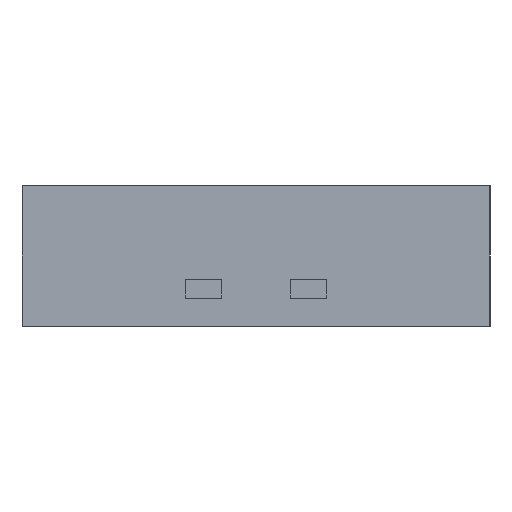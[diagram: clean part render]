
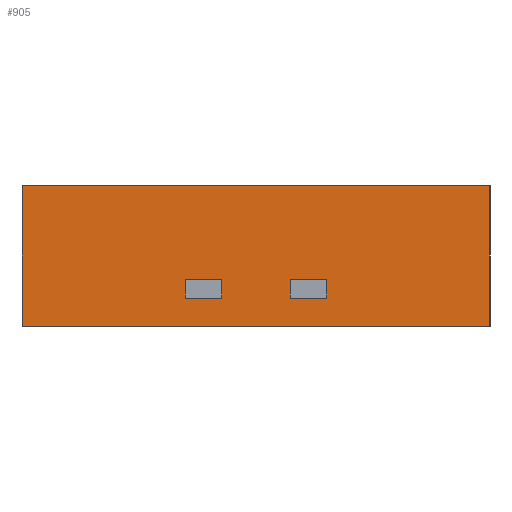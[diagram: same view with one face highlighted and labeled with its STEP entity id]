
A CAD part, left-side view. The second image highlights one B-rep face of the part: STEP entity #905.
In plain terms, the highlighted planar face has unit normal (-1, 0, 0).
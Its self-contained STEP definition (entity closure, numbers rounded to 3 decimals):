
#92 = VERTEX_POINT ( 'NONE', #9311 ) ;
#121 = VECTOR ( 'NONE', #4493, 1000. ) ;
#140 = VECTOR ( 'NONE', #2993, 1000. ) ;
#152 = CARTESIAN_POINT ( 'NONE',  ( -1.362, -0.976, 2.7 ) ) ;
#398 = VERTEX_POINT ( 'NONE', #9143 ) ;
#636 = DIRECTION ( 'NONE',  ( 0., 1., 0. ) ) ;
#674 = VECTOR ( 'NONE', #8005, 1000. ) ;
#692 = EDGE_CURVE ( 'NONE', #92, #1917, #2338, .T. ) ;
#785 = DIRECTION ( 'NONE',  ( 1., 0., 0. ) ) ;
#833 = CARTESIAN_POINT ( 'NONE',  ( -1.362, -0.976, 2.1 ) ) ;
#905 = ADVANCED_FACE ( 'NONE', ( #6013, #4435, #5232 ), #8330, .F. ) ;
#967 = LINE ( 'NONE', #6387, #674 ) ;
#1051 = CARTESIAN_POINT ( 'NONE',  ( -1.362, 1.024, 2.1 ) ) ;
#1217 = ORIENTED_EDGE ( 'NONE', *, *, #1318, .T. ) ;
#1273 = LINE ( 'NONE', #2724, #5417 ) ;
#1296 = EDGE_CURVE ( 'NONE', #9564, #7773, #3031, .T. ) ;
#1318 = EDGE_CURVE ( 'NONE', #8434, #5778, #967, .T. ) ;
#1358 = VECTOR ( 'NONE', #636, 1000. ) ;
#1395 = CARTESIAN_POINT ( 'NONE',  ( -1.362, -0.279, 2.3 ) ) ;
#1430 = ORIENTED_EDGE ( 'NONE', *, *, #2764, .F. ) ;
#1499 = CARTESIAN_POINT ( 'NONE',  ( -1.362, 0.171, 2.22 ) ) ;
#1522 = LINE ( 'NONE', #2267, #8672 ) ;
#1917 = VERTEX_POINT ( 'NONE', #9884 ) ;
#2025 = ORIENTED_EDGE ( 'NONE', *, *, #3788, .T. ) ;
#2067 = CARTESIAN_POINT ( 'NONE',  ( -1.362, -0.123, 2.3 ) ) ;
#2267 = CARTESIAN_POINT ( 'NONE',  ( -1.362, -0.976, 2.1 ) ) ;
#2338 = LINE ( 'NONE', #152, #9969 ) ;
#2486 = DIRECTION ( 'NONE',  ( 0., 0., 1. ) ) ;
#2687 = ORIENTED_EDGE ( 'NONE', *, *, #6282, .F. ) ;
#2724 = CARTESIAN_POINT ( 'NONE',  ( -1.362, 0.327, 2.22 ) ) ;
#2764 = EDGE_CURVE ( 'NONE', #398, #3115, #6875, .T. ) ;
#2838 = CARTESIAN_POINT ( 'NONE',  ( -1.362, -0.123, 2.22 ) ) ;
#2953 = CARTESIAN_POINT ( 'NONE',  ( -1.362, -0.279, 2.3 ) ) ;
#2993 = DIRECTION ( 'NONE',  ( 0., 1., 0. ) ) ;
#3031 = LINE ( 'NONE', #7769, #5473 ) ;
#3115 = VERTEX_POINT ( 'NONE', #7058 ) ;
#3261 = LINE ( 'NONE', #6321, #6780 ) ;
#3521 = ORIENTED_EDGE ( 'NONE', *, *, #6511, .T. ) ;
#3581 = CARTESIAN_POINT ( 'NONE',  ( -1.362, -0.123, 2.22 ) ) ;
#3788 = EDGE_CURVE ( 'NONE', #398, #92, #1522, .T. ) ;
#3838 = DIRECTION ( 'NONE',  ( 0., 1., 0. ) ) ;
#4040 = VERTEX_POINT ( 'NONE', #7561 ) ;
#4222 = ORIENTED_EDGE ( 'NONE', *, *, #4609, .T. ) ;
#4326 = EDGE_LOOP ( 'NONE', ( #7111, #9966, #7021, #4222 ) ) ;
#4427 = ORIENTED_EDGE ( 'NONE', *, *, #7339, .F. ) ;
#4435 = FACE_OUTER_BOUND ( 'NONE', #6996, .T. ) ;
#4481 = CARTESIAN_POINT ( 'NONE',  ( -1.362, 0.171, 2.3 ) ) ;
#4493 = DIRECTION ( 'NONE',  ( 0., 0., -1. ) ) ;
#4583 = CARTESIAN_POINT ( 'NONE',  ( -1.362, -0.976, 2.1 ) ) ;
#4594 = DIRECTION ( 'NONE',  ( 0., 1., 0. ) ) ;
#4609 = EDGE_CURVE ( 'NONE', #7773, #9970, #1273, .T. ) ;
#4768 = CARTESIAN_POINT ( 'NONE',  ( -1.362, 0.171, 2.22 ) ) ;
#4825 = ORIENTED_EDGE ( 'NONE', *, *, #6649, .F. ) ;
#5232 = FACE_BOUND ( 'NONE', #4326, .T. ) ;
#5417 = VECTOR ( 'NONE', #8887, 1000. ) ;
#5473 = VECTOR ( 'NONE', #6049, 1000. ) ;
#5755 = VERTEX_POINT ( 'NONE', #2067 ) ;
#5778 = VERTEX_POINT ( 'NONE', #3581 ) ;
#5814 = AXIS2_PLACEMENT_3D ( 'NONE', #4583, #785, #3838 ) ;
#5825 = CARTESIAN_POINT ( 'NONE',  ( -1.362, -0.279, 2.22 ) ) ;
#5904 = DIRECTION ( 'NONE',  ( 0., 0., 1. ) ) ;
#5905 = LINE ( 'NONE', #4481, #140 ) ;
#6013 = FACE_BOUND ( 'NONE', #6646, .T. ) ;
#6023 = LINE ( 'NONE', #1395, #9082 ) ;
#6049 = DIRECTION ( 'NONE',  ( 0., 1., 0. ) ) ;
#6260 = VERTEX_POINT ( 'NONE', #2953 ) ;
#6282 = EDGE_CURVE ( 'NONE', #6260, #5755, #6023, .T. ) ;
#6321 = CARTESIAN_POINT ( 'NONE',  ( -1.362, -0.279, 2.22 ) ) ;
#6387 = CARTESIAN_POINT ( 'NONE',  ( -1.362, -0.279, 2.22 ) ) ;
#6511 = EDGE_CURVE ( 'NONE', #5778, #5755, #8953, .T. ) ;
#6646 = EDGE_LOOP ( 'NONE', ( #2687, #4427, #1217, #3521 ) ) ;
#6649 = EDGE_CURVE ( 'NONE', #3115, #1917, #8159, .T. ) ;
#6694 = CARTESIAN_POINT ( 'NONE',  ( -1.362, 0.327, 2.22 ) ) ;
#6780 = VECTOR ( 'NONE', #2486, 1000. ) ;
#6875 = LINE ( 'NONE', #833, #1358 ) ;
#6996 = EDGE_LOOP ( 'NONE', ( #9205, #4825, #1430, #2025 ) ) ;
#7021 = ORIENTED_EDGE ( 'NONE', *, *, #1296, .T. ) ;
#7058 = CARTESIAN_POINT ( 'NONE',  ( -1.362, 1.024, 2.1 ) ) ;
#7111 = ORIENTED_EDGE ( 'NONE', *, *, #9140, .F. ) ;
#7339 = EDGE_CURVE ( 'NONE', #8434, #6260, #3261, .T. ) ;
#7413 = VECTOR ( 'NONE', #8051, 1000. ) ;
#7542 = DIRECTION ( 'NONE',  ( 0., 1., 0. ) ) ;
#7561 = CARTESIAN_POINT ( 'NONE',  ( -1.362, 0.171, 2.3 ) ) ;
#7769 = CARTESIAN_POINT ( 'NONE',  ( -1.362, 0.171, 2.22 ) ) ;
#7773 = VERTEX_POINT ( 'NONE', #6694 ) ;
#7942 = VECTOR ( 'NONE', #5904, 1000. ) ;
#8005 = DIRECTION ( 'NONE',  ( 0., 1., 0. ) ) ;
#8051 = DIRECTION ( 'NONE',  ( 0., 0., 1. ) ) ;
#8159 = LINE ( 'NONE', #1051, #7413 ) ;
#8330 = PLANE ( 'NONE',  #5814 ) ;
#8420 = DIRECTION ( 'NONE',  ( 0., 0., 1. ) ) ;
#8434 = VERTEX_POINT ( 'NONE', #5825 ) ;
#8672 = VECTOR ( 'NONE', #8420, 1000. ) ;
#8793 = EDGE_CURVE ( 'NONE', #4040, #9564, #9688, .T. ) ;
#8887 = DIRECTION ( 'NONE',  ( 0., 0., 1. ) ) ;
#8953 = LINE ( 'NONE', #2838, #7942 ) ;
#9082 = VECTOR ( 'NONE', #7542, 1000. ) ;
#9140 = EDGE_CURVE ( 'NONE', #4040, #9970, #5905, .T. ) ;
#9143 = CARTESIAN_POINT ( 'NONE',  ( -1.362, -0.976, 2.1 ) ) ;
#9205 = ORIENTED_EDGE ( 'NONE', *, *, #692, .T. ) ;
#9311 = CARTESIAN_POINT ( 'NONE',  ( -1.362, -0.976, 2.7 ) ) ;
#9564 = VERTEX_POINT ( 'NONE', #4768 ) ;
#9688 = LINE ( 'NONE', #1499, #121 ) ;
#9784 = CARTESIAN_POINT ( 'NONE',  ( -1.362, 0.327, 2.3 ) ) ;
#9884 = CARTESIAN_POINT ( 'NONE',  ( -1.362, 1.024, 2.7 ) ) ;
#9966 = ORIENTED_EDGE ( 'NONE', *, *, #8793, .T. ) ;
#9969 = VECTOR ( 'NONE', #4594, 1000. ) ;
#9970 = VERTEX_POINT ( 'NONE', #9784 ) ;
